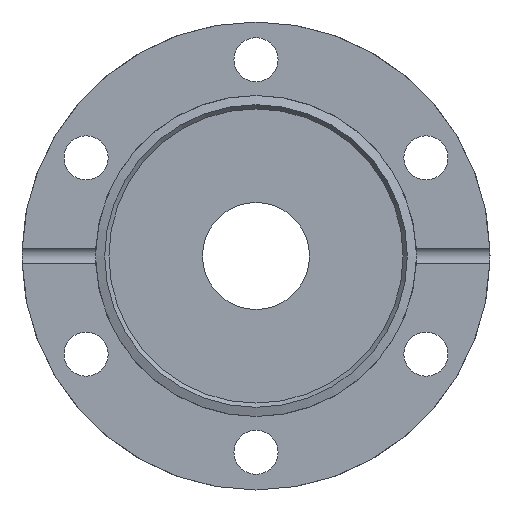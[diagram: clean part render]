
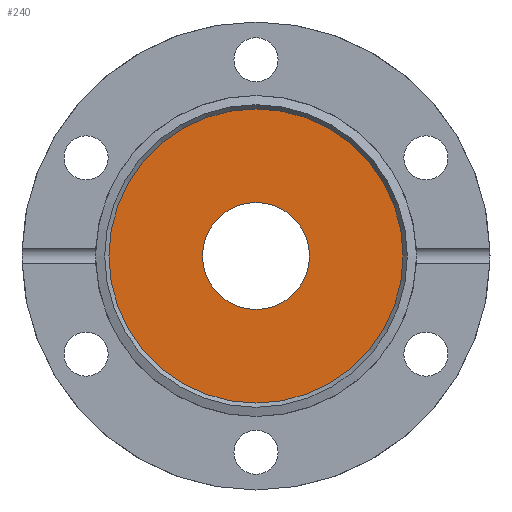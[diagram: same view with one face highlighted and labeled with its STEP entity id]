
A CAD part, left-side view. The second image highlights one B-rep face of the part: STEP entity #240.
In plain terms, the highlighted planar face has unit normal (-1, 0, 0).
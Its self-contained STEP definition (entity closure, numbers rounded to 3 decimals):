
#240 = ADVANCED_FACE( '', ( #453, #454 ), #455, .F. );
#453 = FACE_OUTER_BOUND( '', #732, .T. );
#454 = FACE_BOUND( '', #733, .T. );
#455 = PLANE( '', #734 );
#732 = EDGE_LOOP( '', ( #939 ) );
#733 = EDGE_LOOP( '', ( #940 ) );
#734 = AXIS2_PLACEMENT_3D( '', #941, #942, #943 );
#939 = ORIENTED_EDGE( '', *, *, #1273, .T. );
#940 = ORIENTED_EDGE( '', *, *, #1274, .F. );
#941 = CARTESIAN_POINT( '', ( -11.4, 0., 22. ) );
#942 = DIRECTION( '', ( 1., 0., 0. ) );
#943 = DIRECTION( '', ( 0., 1., 0. ) );
#1273 = EDGE_CURVE( '', #1391, #1391, #1392, .T. );
#1274 = EDGE_CURVE( '', #1393, #1393, #1394, .T. );
#1391 = VERTEX_POINT( '', #1573 );
#1392 = CIRCLE( '', #1574, 22. );
#1393 = VERTEX_POINT( '', #1575 );
#1394 = CIRCLE( '', #1576, 8. );
#1573 = CARTESIAN_POINT( '', ( -11.4, 0., 22. ) );
#1574 = AXIS2_PLACEMENT_3D( '', #1866, #1867, #1868 );
#1575 = CARTESIAN_POINT( '', ( -11.4, 0., 8. ) );
#1576 = AXIS2_PLACEMENT_3D( '', #1869, #1870, #1871 );
#1866 = CARTESIAN_POINT( '', ( -11.4, 0., 0. ) );
#1867 = DIRECTION( '', ( -1., 0., 0. ) );
#1868 = DIRECTION( '', ( 0., 0., 1. ) );
#1869 = CARTESIAN_POINT( '', ( -11.4, 0., 0. ) );
#1870 = DIRECTION( '', ( -1., 0., 0. ) );
#1871 = DIRECTION( '', ( 0., 0., 1. ) );
